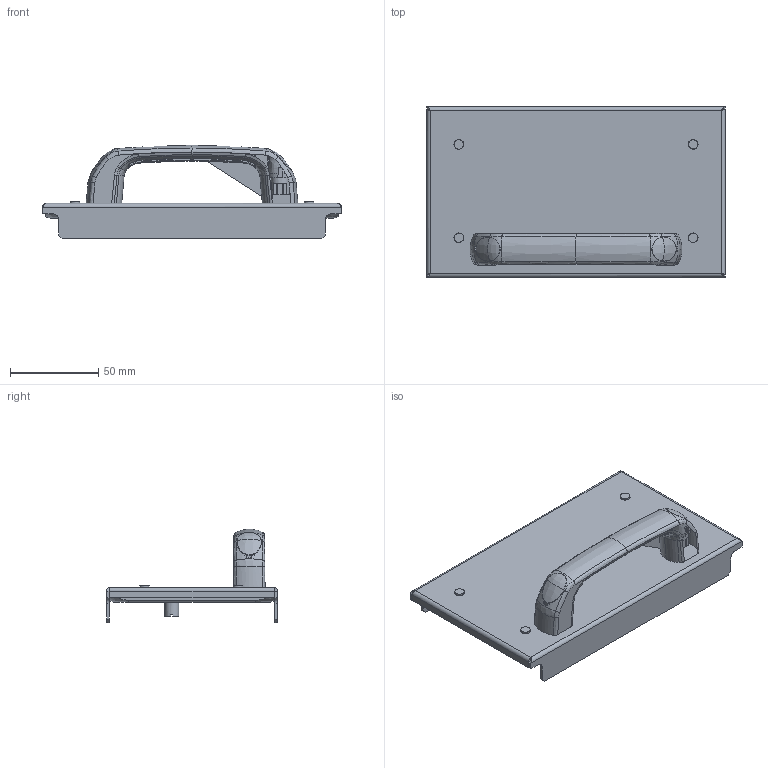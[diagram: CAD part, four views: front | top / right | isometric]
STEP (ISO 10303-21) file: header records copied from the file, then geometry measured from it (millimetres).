
FILE_DESCRIPTION(('CAx-IF Rec.Pracs.---Model Styling and Organization---1.2---2011-12-15','CAx-IF Rec.Pracs.---Geometric and Assembly Validation Properties---4.1---2014-06-16','CAx-IF Rec.Pracs.---PMI Polyline Presentation---2.0---2013-05-24'),'2;1');
FILE_NAME('R5M2W2M3BF.stp','2021-05-05T12:10:13+03:00',(''),(''),'STEP Interface 4.4 by CT CoreTechnologie','3D_Evolution4.4 by CT CoreTechnologie','');
FILE_SCHEMA(('AUTOMOTIVE_DESIGN { 1 0 10303 214 1 1 1 1 }'));
Length unit declared in the file: millimetre
Products named in the file (10): R5M2W2M3BF; 4.444.001; PR.DT477.100.02; PR.DT477.100.01; RB.1215.01.00.0 ÑÁ_-00; RB.1215.01.01.0_-00; PF 7x14 RAMmcc 2.0_1å3_; AC00C061_AC00C061; Ì6õ12-A5100231_straight; 5-GOST 11371-78 (DIN 125) PA 6.6_5-GOST 11371-78 (DIN 125) PA 6.6
Assembly tree (13 placements, depth 3):
  R5M2W2M3BF
    4.444.001
      PR.DT477.100.02  x2
      PR.DT477.100.01
    RB.1215.01.00.0 ÑÁ_-00
      RB.1215.01.01.0_-00
      PF 7x14 RAMmcc 2.0_1å3_
      AC00C061_AC00C061
      Ì6õ12-A5100231_straight
    5-GOST 11371-78 (DIN 125) PA 6.6_5-GOST 11371-78 (DIN 125) PA 6.6  x4
Bounding box: 169.5 x 97 x 52.94 mm (x, y, z)
Surface area: 76709.1 mm2 (no closed solid volume)
Topology: 0 solids, 12 shells, 949 faces, 2288 edges, 1361 vertices
Faces by surface type: bspline 597, plane 256, cylinder 96
Entity records: 41294 total; most frequent: CARTESIAN_POINT 22769, ORIENTED_EDGE 4066, DIRECTION 3491, EDGE_CURVE 2033, AXIS2_PLACEMENT_3D 1381, VERTEX_POINT 1212, CIRCLE 1085, EDGE_LOOP 875
